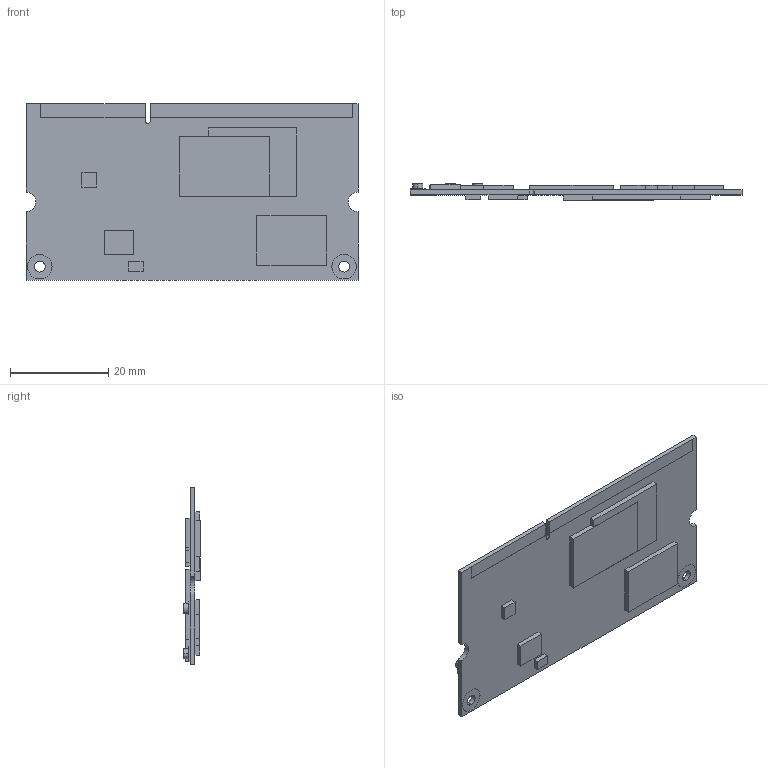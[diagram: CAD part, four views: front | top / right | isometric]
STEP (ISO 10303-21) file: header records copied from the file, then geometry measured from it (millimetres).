
FILE_DESCRIPTION (( 'STEP AP214' ), '1' );
FILE_NAME ('Stock Configuration, CM-T43.STEP', '2015-02-09T08:47:13', ( '' ), ( '' ), 'SwSTEP 2.0', 'SolidWorks 2011', '' );
FILE_SCHEMA (( 'AUTOMOTIVE_DESIGN' ));
Length unit declared in the file: millimetre
Products named in the file (3): SMT-ANT-CONN; PCB-CM-T43; Stock Configuration, CM-T43
Assembly tree (4 placements, depth 2):
  Stock Configuration, CM-T43
    PCB-CM-T43
    SMT-ANT-CONN  x3
Bounding box: 67.6 x 3.4 x 36 mm (x, y, z)
Volume: 3727.9 mm3; surface area: 5607.4 mm2
Topology: 4 solids, 4 shells, 170 faces, 405 edges, 270 vertices
Faces by surface type: plane 135, cylinder 35
Entity records: 5340 total; most frequent: CARTESIAN_POINT 722, ORIENTED_EDGE 690, DIRECTION 685, EDGE_CURVE 345, VECTOR 299, LINE 299, VERTEX_POINT 230, AXIS2_PLACEMENT_3D 193
